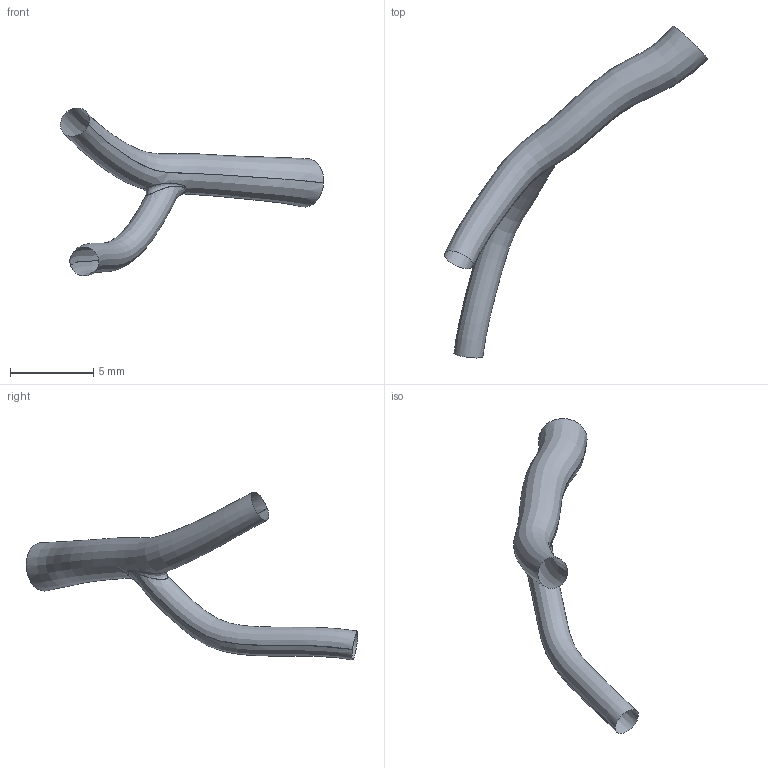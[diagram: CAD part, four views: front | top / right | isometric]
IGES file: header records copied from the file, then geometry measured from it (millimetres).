
Global section: file name: C:\Documents and Settings\Administrator\Desktop\FDA-Pig\Domestic LCA\Pig_000137\om.ed.igs; native system: Rhinoceros ( May 19 2006 ); preprocessor: Trout Lake IGES 012 May 19 2006; date: 111205.184220; units: centimetre
Bounding box: 15.83 x 19.95 x 10.09 mm (x, y, z)
Surface area: 224.1 mm2 (no closed solid volume)
Topology: 0 solids, 0 shells, 3 faces, 47 edges, 44 vertices
Faces by surface type: bspline 3
